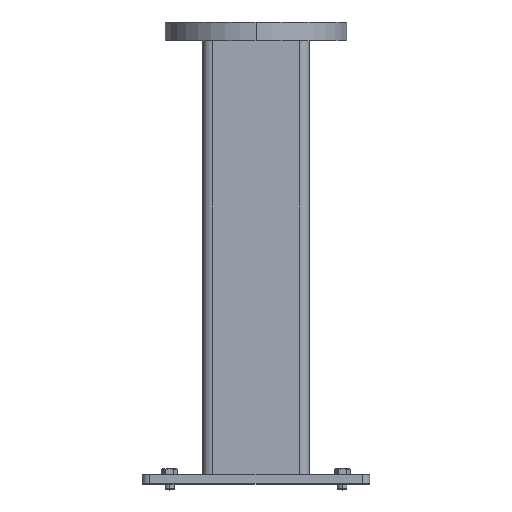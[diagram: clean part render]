
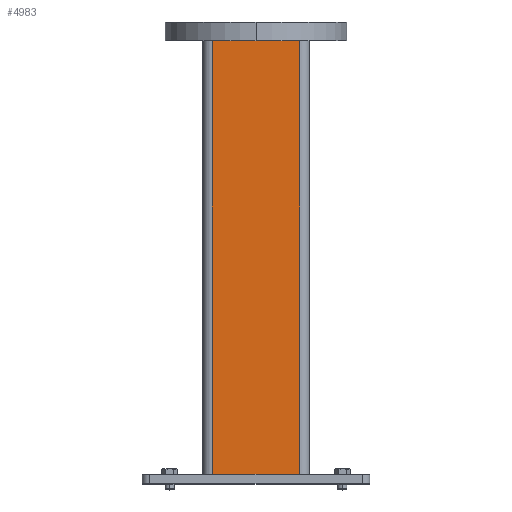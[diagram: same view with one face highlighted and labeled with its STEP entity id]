
A CAD part, top view. The second image highlights one B-rep face of the part: STEP entity #4983.
In plain terms, the highlighted planar face has unit normal (0, 0, 1).
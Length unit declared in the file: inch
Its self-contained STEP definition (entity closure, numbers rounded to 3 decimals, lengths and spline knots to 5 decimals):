
#415 = VERTEX_POINT ( 'NONE', #1569 ) ;
#453 = VECTOR ( 'NONE', #5847, 39.37008 ) ;
#962 = ORIENTED_EDGE ( 'NONE', *, *, #2066, .T. ) ;
#1166 = DIRECTION ( 'NONE',  ( -1., 0., 0. ) ) ;
#1231 = DIRECTION ( 'NONE',  ( 0., -1., 0. ) ) ;
#1234 = CARTESIAN_POINT ( 'NONE',  ( -2.28346, 0., 2.75591 ) ) ;
#1357 = EDGE_LOOP ( 'NONE', ( #1410, #2049, #5841, #962 ) ) ;
#1410 = ORIENTED_EDGE ( 'NONE', *, *, #7159, .T. ) ;
#1555 = VECTOR ( 'NONE', #7422, 39.37008 ) ;
#1569 = CARTESIAN_POINT ( 'NONE',  ( 2.28346, 0., 2.75591 ) ) ;
#1760 = CARTESIAN_POINT ( 'NONE',  ( -2.28346, 22.54331, 2.75591 ) ) ;
#1907 = CARTESIAN_POINT ( 'NONE',  ( -2.28346, 22.54331, 2.75591 ) ) ;
#2049 = ORIENTED_EDGE ( 'NONE', *, *, #3831, .F. ) ;
#2066 = EDGE_CURVE ( 'NONE', #4111, #4177, #6461, .T. ) ;
#2800 = LINE ( 'NONE', #3415, #2898 ) ;
#2873 = DIRECTION ( 'NONE',  ( 1., 0., 0. ) ) ;
#2875 = DIRECTION ( 'NONE',  ( 0., 0., -1. ) ) ;
#2898 = VECTOR ( 'NONE', #2873, 39.37008 ) ;
#2908 = AXIS2_PLACEMENT_3D ( 'NONE', #3491, #2875, #1166 ) ;
#3333 = CARTESIAN_POINT ( 'NONE',  ( 2.28346, 22.54331, 2.75591 ) ) ;
#3415 = CARTESIAN_POINT ( 'NONE',  ( -2.28346, 22.54331, 2.75591 ) ) ;
#3491 = CARTESIAN_POINT ( 'NONE',  ( -2.28346, 22.54331, 2.75591 ) ) ;
#3831 = EDGE_CURVE ( 'NONE', #4059, #415, #5462, .T. ) ;
#3860 = EDGE_CURVE ( 'NONE', #4111, #4059, #2800, .T. ) ;
#4059 = VERTEX_POINT ( 'NONE', #5737 ) ;
#4111 = VERTEX_POINT ( 'NONE', #1907 ) ;
#4142 = LINE ( 'NONE', #4770, #453 ) ;
#4177 = VERTEX_POINT ( 'NONE', #1234 ) ;
#4770 = CARTESIAN_POINT ( 'NONE',  ( -2.28346, 0., 2.75591 ) ) ;
#4983 = ADVANCED_FACE ( 'NONE', ( #5774 ), #6431, .F. ) ;
#5462 = LINE ( 'NONE', #3333, #1555 ) ;
#5737 = CARTESIAN_POINT ( 'NONE',  ( 2.28346, 22.54331, 2.75591 ) ) ;
#5774 = FACE_OUTER_BOUND ( 'NONE', #1357, .T. ) ;
#5841 = ORIENTED_EDGE ( 'NONE', *, *, #3860, .F. ) ;
#5847 = DIRECTION ( 'NONE',  ( 1., 0., 0. ) ) ;
#6431 = PLANE ( 'NONE',  #2908 ) ;
#6461 = LINE ( 'NONE', #1760, #7268 ) ;
#7159 = EDGE_CURVE ( 'NONE', #4177, #415, #4142, .T. ) ;
#7268 = VECTOR ( 'NONE', #1231, 39.37008 ) ;
#7422 = DIRECTION ( 'NONE',  ( 0., -1., 0. ) ) ;
